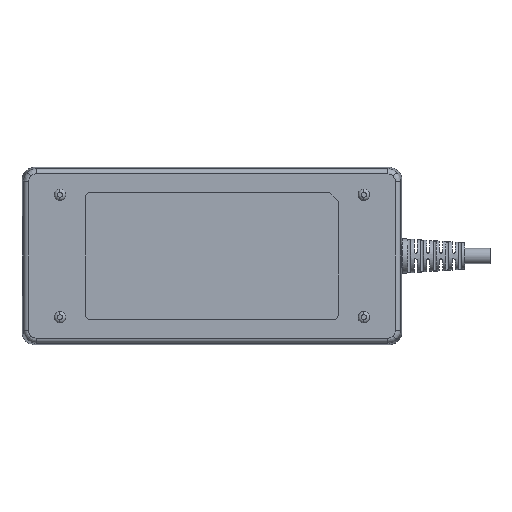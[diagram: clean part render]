
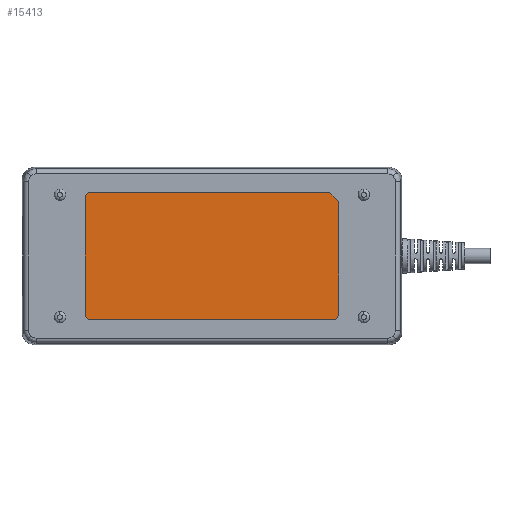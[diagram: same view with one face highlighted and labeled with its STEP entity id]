
A CAD part, front view. The second image highlights one B-rep face of the part: STEP entity #15413.
In plain terms, the highlighted planar face has unit normal (0, -1, 0).
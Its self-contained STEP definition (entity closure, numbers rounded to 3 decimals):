
#213 = ORIENTED_EDGE ( 'NONE', *, *, #16374, .T. ) ;
#414 = CARTESIAN_POINT ( 'NONE',  ( 46.5, -18.75, 25. ) ) ;
#527 = ORIENTED_EDGE ( 'NONE', *, *, #15985, .T. ) ;
#680 = DIRECTION ( 'NONE',  ( 0., 0., 1. ) ) ;
#847 = CARTESIAN_POINT ( 'NONE',  ( 48., -18.75, -25. ) ) ;
#1153 = CARTESIAN_POINT ( 'NONE',  ( 48., -18.75, -25. ) ) ;
#1224 = DIRECTION ( 'NONE',  ( 0., 0., 1. ) ) ;
#1500 = EDGE_CURVE ( 'NONE', #6431, #15369, #3431, .T. ) ;
#1556 = LINE ( 'NONE', #414, #18174 ) ;
#1921 = CARTESIAN_POINT ( 'NONE',  ( -50., -18.75, 23. ) ) ;
#2070 = CARTESIAN_POINT ( 'NONE',  ( 50., -18.75, 21.5 ) ) ;
#2083 = CARTESIAN_POINT ( 'NONE',  ( -48., -18.75, 23. ) ) ;
#2288 = DIRECTION ( 'NONE',  ( 0., -1., 0. ) ) ;
#2374 = CARTESIAN_POINT ( 'NONE',  ( 48., -18.75, -23. ) ) ;
#2442 = ORIENTED_EDGE ( 'NONE', *, *, #11195, .T. ) ;
#2632 = VERTEX_POINT ( 'NONE', #10039 ) ;
#2692 = EDGE_LOOP ( 'NONE', ( #2828, #16259, #17216, #8887, #213, #527, #2442, #7747 ) ) ;
#2828 = ORIENTED_EDGE ( 'NONE', *, *, #6871, .T. ) ;
#3199 = CARTESIAN_POINT ( 'NONE',  ( -48., -18.75, 25. ) ) ;
#3214 = CIRCLE ( 'NONE', #15850, 2. ) ;
#3431 = LINE ( 'NONE', #1921, #4579 ) ;
#4028 = DIRECTION ( 'NONE',  ( -1., 0., 0. ) ) ;
#4349 = DIRECTION ( 'NONE',  ( 0., 1., 0. ) ) ;
#4579 = VECTOR ( 'NONE', #6073, 1000. ) ;
#4859 = DIRECTION ( 'NONE',  ( 0., -1., 0. ) ) ;
#4953 = VECTOR ( 'NONE', #1224, 1000. ) ;
#5046 = DIRECTION ( 'NONE',  ( 0., 0., 1. ) ) ;
#5056 = CARTESIAN_POINT ( 'NONE',  ( 46.5, -18.75, 25. ) ) ;
#5125 = CARTESIAN_POINT ( 'NONE',  ( -50., -18.75, 23. ) ) ;
#5424 = LINE ( 'NONE', #12702, #16164 ) ;
#5884 = VERTEX_POINT ( 'NONE', #3199 ) ;
#6073 = DIRECTION ( 'NONE',  ( 0., 0., -1. ) ) ;
#6431 = VERTEX_POINT ( 'NONE', #5125 ) ;
#6691 = LINE ( 'NONE', #14126, #4953 ) ;
#6871 = EDGE_CURVE ( 'NONE', #12069, #13626, #1556, .T. ) ;
#7247 = CIRCLE ( 'NONE', #15037, 2. ) ;
#7614 = CARTESIAN_POINT ( 'NONE',  ( -48., -18.75, -23. ) ) ;
#7747 = ORIENTED_EDGE ( 'NONE', *, *, #17136, .T. ) ;
#7811 = LINE ( 'NONE', #847, #17771 ) ;
#7941 = CARTESIAN_POINT ( 'NONE',  ( -50., -18.75, -23. ) ) ;
#8173 = CIRCLE ( 'NONE', #12991, 2. ) ;
#8887 = ORIENTED_EDGE ( 'NONE', *, *, #1500, .T. ) ;
#9197 = VERTEX_POINT ( 'NONE', #1153 ) ;
#9335 = PLANE ( 'NONE',  #11154 ) ;
#9618 = DIRECTION ( 'NONE',  ( 0., 0., 1. ) ) ;
#10039 = CARTESIAN_POINT ( 'NONE',  ( 50., -18.75, -23. ) ) ;
#10275 = CARTESIAN_POINT ( 'NONE',  ( -48., -18.75, -25. ) ) ;
#10761 = FACE_OUTER_BOUND ( 'NONE', #2692, .T. ) ;
#11154 = AXIS2_PLACEMENT_3D ( 'NONE', #15079, #4349, #14340 ) ;
#11195 = EDGE_CURVE ( 'NONE', #9197, #2632, #3214, .T. ) ;
#11312 = VERTEX_POINT ( 'NONE', #10275 ) ;
#11564 = EDGE_CURVE ( 'NONE', #13626, #5884, #5424, .T. ) ;
#12069 = VERTEX_POINT ( 'NONE', #2070 ) ;
#12333 = DIRECTION ( 'NONE',  ( 1., 0., 0. ) ) ;
#12702 = CARTESIAN_POINT ( 'NONE',  ( 46.5, -18.75, 25. ) ) ;
#12991 = AXIS2_PLACEMENT_3D ( 'NONE', #7614, #4859, #5046 ) ;
#13584 = DIRECTION ( 'NONE',  ( 0., -1., 0. ) ) ;
#13626 = VERTEX_POINT ( 'NONE', #5056 ) ;
#14126 = CARTESIAN_POINT ( 'NONE',  ( 50., -18.75, 21.5 ) ) ;
#14340 = DIRECTION ( 'NONE',  ( 0., 0., 1. ) ) ;
#14723 = DIRECTION ( 'NONE',  ( -0.707, 0., 0.707 ) ) ;
#15037 = AXIS2_PLACEMENT_3D ( 'NONE', #2083, #13584, #680 ) ;
#15079 = CARTESIAN_POINT ( 'NONE',  ( 48., -18.75, -23. ) ) ;
#15369 = VERTEX_POINT ( 'NONE', #7941 ) ;
#15409 = EDGE_CURVE ( 'NONE', #5884, #6431, #7247, .T. ) ;
#15413 = ADVANCED_FACE ( 'NONE', ( #10761 ), #9335, .F. ) ;
#15850 = AXIS2_PLACEMENT_3D ( 'NONE', #2374, #2288, #9618 ) ;
#15985 = EDGE_CURVE ( 'NONE', #11312, #9197, #7811, .T. ) ;
#16164 = VECTOR ( 'NONE', #4028, 1000. ) ;
#16259 = ORIENTED_EDGE ( 'NONE', *, *, #11564, .T. ) ;
#16374 = EDGE_CURVE ( 'NONE', #15369, #11312, #8173, .T. ) ;
#17136 = EDGE_CURVE ( 'NONE', #2632, #12069, #6691, .T. ) ;
#17216 = ORIENTED_EDGE ( 'NONE', *, *, #15409, .T. ) ;
#17771 = VECTOR ( 'NONE', #12333, 1000. ) ;
#18174 = VECTOR ( 'NONE', #14723, 1000. ) ;
